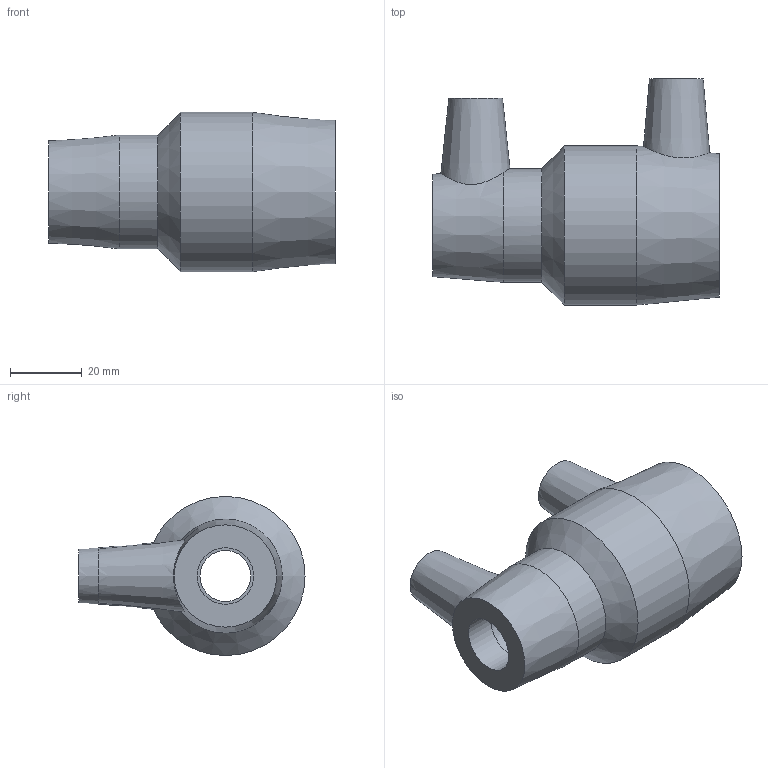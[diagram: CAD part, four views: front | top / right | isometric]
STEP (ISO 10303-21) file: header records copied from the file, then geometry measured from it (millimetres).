
FILE_DESCRIPTION(/* description */ ('PLASSON ASTM REDUCING COUPLER 1''''IPS-1/2''''CTS'),/* implementation_level */ '2;1');
FILE_NAME(/* name */ 'C:\Dropbox\KIMPROJECTS-Inventor 2019\99-16-3568-Processing Inch\ASTM ElectroFusion 2021\5911\5911BU03010005.ipt.stp',/* time_stamp */ '2021-08-30T09:50:13+03:00',/* author */ ('KIM'),/* organization */ (''),/* preprocessor_version */ 'ST-DEVELOPER v17.2',/* originating_system */ 'Autodesk Inventor 2019',/* authorisation */ '');
FILE_SCHEMA (('AUTOMOTIVE_DESIGN { 1 0 10303 214 3 1 1 }'));
Length unit declared in the file: inch
Products named in the file (1): 5911BU03010005
Bounding box: 80.01 x 63.12 x 44.45 mm (x, y, z)
Volume: 57002.5 mm3; surface area: 20866.1 mm2
Topology: 1 solids, 1 shells, 32 faces, 75 edges, 54 vertices
Faces by surface type: plane 12, cylinder 11, cone 9
Full cylindrical faces by diameter (mm): 4 x2, 10 x2, 14.22 x1, 15.8 x2, 31.75 x1, 33.3 x2, 44.45 x1
Entity records: 1082 total; most frequent: CARTESIAN_POINT 244, DIRECTION 185, ORIENTED_EDGE 150, AXIS2_PLACEMENT_3D 83, EDGE_CURVE 75, VERTEX_POINT 54, CIRCLE 50, EDGE_LOOP 43
